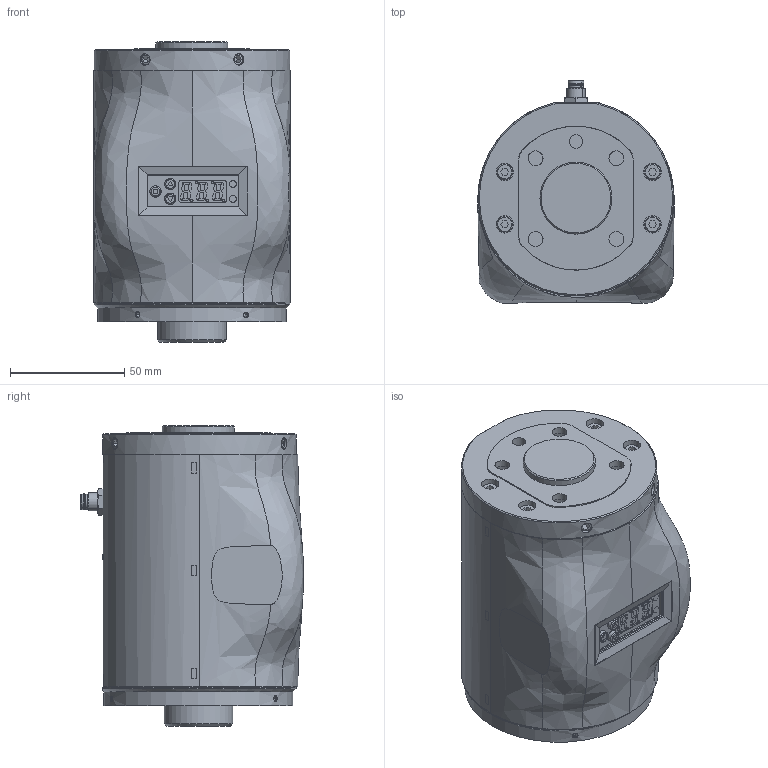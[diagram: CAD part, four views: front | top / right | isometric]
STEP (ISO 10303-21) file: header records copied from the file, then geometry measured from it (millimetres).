
FILE_DESCRIPTION(('STEP AP203'),'1');
FILE_NAME('SGE-G1-N.stp','2023-09-01T05:27:23',(' '),(' '),'Spatial InterOp 3D',' ',' ');
FILE_SCHEMA(('CONFIG_CONTROL_DESIGN'));
Length unit declared in the file: millimetre
Products named in the file (3): SGE-G1-N; ASSY; パーツ1
Assembly tree (2 placements, depth 2):
  SGE-G1-N
    ASSY
    パーツ1
Bounding box: 86.02 x 97.46 x 131.5 mm (x, y, z)
Volume: 216820.3 mm3; surface area: 97110.9 mm2
Topology: 6 solids, 11 shells, 976 faces, 2746 edges, 1883 vertices
Faces by surface type: plane 667, cylinder 216, cone 42, bspline 36, offset 10, torus 5
Full cylindrical faces by diameter (mm): 1 x5, 1.6 x4, 2.5 x18, 3 x2, 4 x4, 4.1 x4, 4.2 x8, 4.8 x3, 5 x31, 6 x1, 6.5 x4, 7 x8, 7.6 x8, 8.2 x1, 11 x4, 30 x1, 31.5 x1, 82.6 x1
Entity records: 41173 total; most frequent: CARTESIAN_POINT 18543, ORIENTED_EDGE 4887, DIRECTION 4092, EDGE_CURVE 2447, VERTEX_POINT 1743, LINE 1544, VECTOR 1544, AXIS2_PLACEMENT_3D 1274
